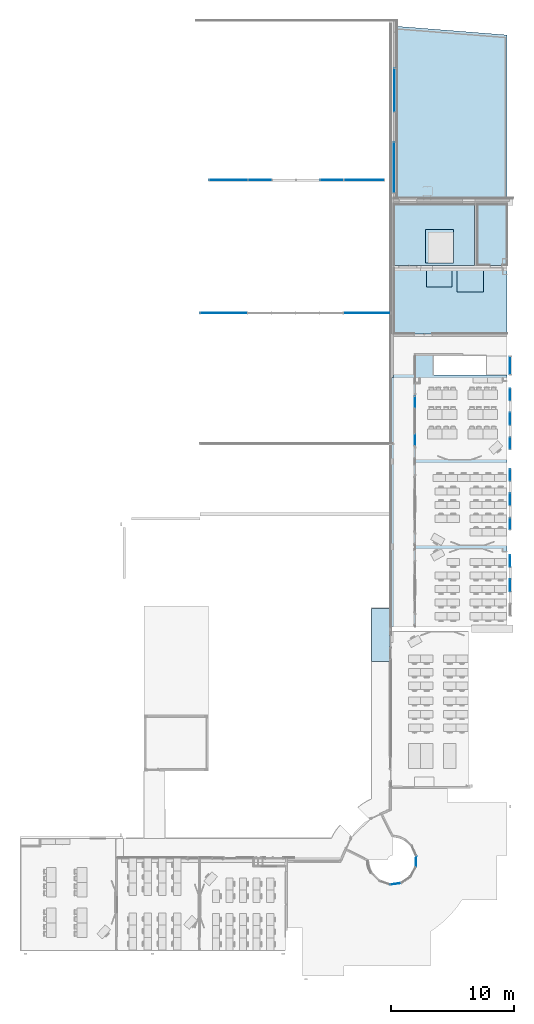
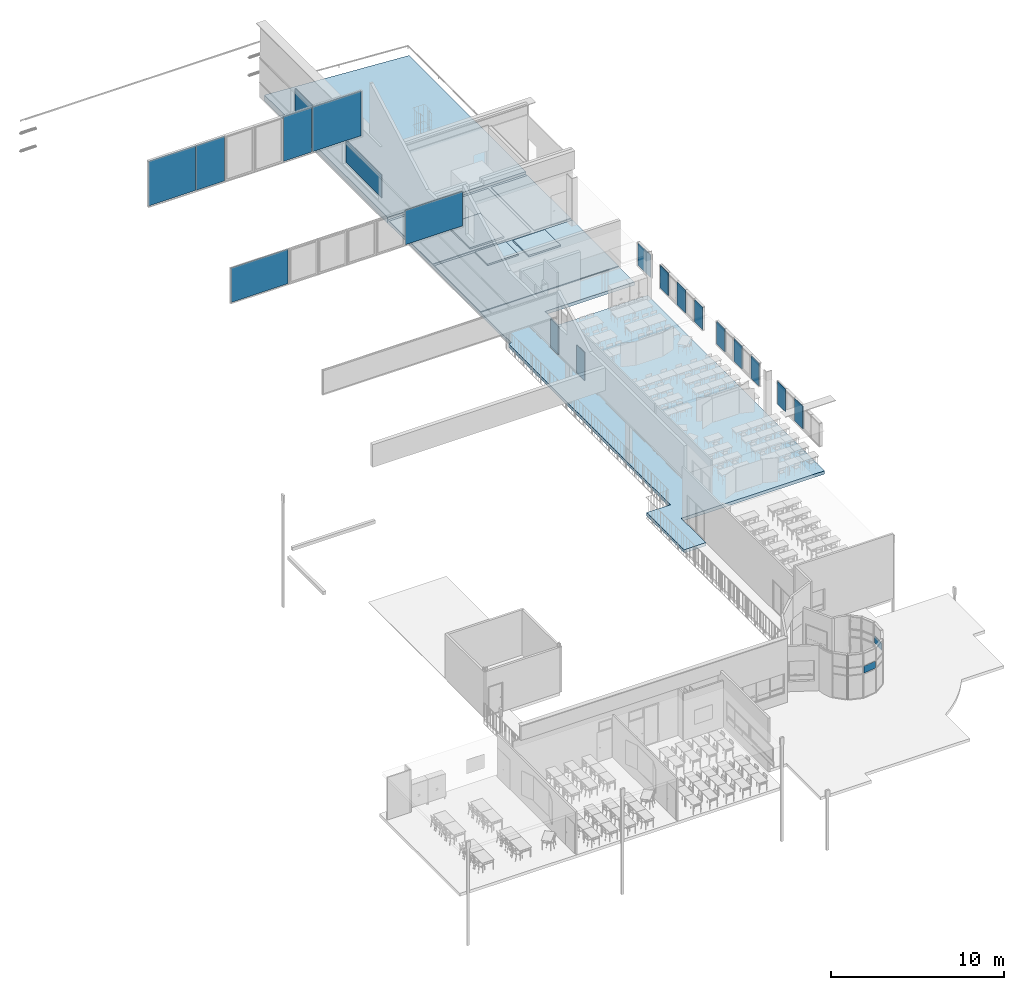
# One storey, part 16 of 44: 34 plates, 8 slabs, 17 elements without a shape of their own.
"""IFC2X3 building model written with IfcOpenShell, lengths in centimetres."""

from ifc_helpers import new_model, entity, si_unit, converted_unit, derived_unit, direction, frame, frame_2d, origin, origin_2d_with_axis, place, context, subcontext, project, spatial, polyline, rectangle, outline, extrude, source, transform, mapped, material, layer, layer_set, layer_usage, type_object, type_shapes, element, aggregate, save


model = new_model("IFC2X3")

# Units and contexts
model_context = context("Model", 3, precision=0.001, world=origin(), true_north=direction((6.12303176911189e-17, 1.0)))
body_context = subcontext(model_context, "Body", "Model", "MODEL_VIEW")
ifc_project = project(units=[si_unit("LENGTHUNIT", "METRE", prefix="CENTI"), si_unit("AREAUNIT", "SQUARE_METRE"), si_unit("VOLUMEUNIT", "CUBIC_METRE"), converted_unit("PLANEANGLEUNIT", "DEGREE", entity("IfcRatioMeasure", 0.0174532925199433), si_unit("PLANEANGLEUNIT", "RADIAN"), dimensions=[0, 0, 0, 0, 0, 0, 0]), si_unit("MASSUNIT", "GRAM", prefix="KILO"), si_unit("TIMEUNIT", "SECOND"), si_unit("FREQUENCYUNIT", "HERTZ"), si_unit("THERMODYNAMICTEMPERATUREUNIT", "DEGREE_CELSIUS"), derived_unit("THERMALTRANSMITTANCEUNIT", [(si_unit("MASSUNIT", "GRAM", prefix="KILO"), 1), (si_unit("THERMODYNAMICTEMPERATUREUNIT", "KELVIN"), -1), (si_unit("TIMEUNIT", "SECOND"), -3)]), derived_unit("VOLUMETRICFLOWRATEUNIT", [(si_unit("LENGTHUNIT", "METRE"), 3), (si_unit("TIMEUNIT", "SECOND"), -1)]), si_unit("ELECTRICCURRENTUNIT", "AMPERE"), si_unit("ELECTRICVOLTAGEUNIT", "VOLT"), si_unit("POWERUNIT", "WATT"), si_unit("FORCEUNIT", "NEWTON", prefix="KILO"), si_unit("ILLUMINANCEUNIT", "LUX"), si_unit("LUMINOUSFLUXUNIT", "LUMEN"), si_unit("LUMINOUSINTENSITYUNIT", "CANDELA"), derived_unit("USERDEFINED", [(si_unit("MASSUNIT", "GRAM", prefix="KILO"), -1), (si_unit("LENGTHUNIT", "METRE"), -2), (si_unit("TIMEUNIT", "SECOND"), 3), (si_unit("LUMINOUSFLUXUNIT", "LUMEN"), 1)]), derived_unit("LINEARVELOCITYUNIT", [(si_unit("LENGTHUNIT", "METRE"), 1), (si_unit("TIMEUNIT", "SECOND"), -1)]), si_unit("PRESSUREUNIT", "PASCAL"), derived_unit("USERDEFINED", [(si_unit("LENGTHUNIT", "METRE"), -2), (si_unit("MASSUNIT", "GRAM", prefix="KILO"), 1), (si_unit("TIMEUNIT", "SECOND"), -2)])], contexts=[model_context])

# Site, building, storey
site_placement = place(None, frame((8.62739174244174, -249.285249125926, 0.0)))
site = spatial("IfcSite", under=ifc_project, at=site_placement, Name="Default", CompositionType="ELEMENT")
building_placement = place(site_placement, origin())
building = spatial("IfcBuilding", under=site, at=building_placement, CompositionType="ELEMENT")
storey_placement = place(building_placement, frame((0.0, 0.0, 343.0)))
storey = spatial("IfcBuildingStorey", under=building, at=storey_placement, Name="R+1", CompositionType="ELEMENT", Elevation=343.0)

# Curtain wall, plate
curtain_wall_type_1 = type_object("IfcCurtainWallType", Name="Mur-rideau:Simple panneau", PredefinedType="NOTDEFINED")
curtain_wall_1_placement = place(storey_placement, frame((0.0, 0.0, -343.0)))
curtain_wall_1 = element("IfcCurtainWall", 1, at=curtain_wall_1_placement, inside=storey, type_object=curtain_wall_type_1, Name="Mur-rideau:Simple panneau", ObjectType="Mur-rideau:Simple panneau")
ifc_material_1 = material(Name="Verre")
plate_type_1 = type_object("IfcPlateType", Name="Vitré", PredefinedType="CURTAIN_PANEL", material=ifc_material_1)
shared_shape_1 = source(origin(), body_context, "Body", "SweptSolid", [
    extrude(rectangle(XDim=4.0, YDim=94.9999999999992, at=origin_2d_with_axis()), frame((0.0, -2.49999999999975, 0.0), z_axis=(0.0, 0.0, 1.0), x_axis=(0.0, 1.0, 0.0)), (0.0, 0.0, 1.0), 160.0),
])
type_shapes(plate_type_1, [shared_shape_1])
plate_1_placement = place(curtain_wall_1_placement, frame((4001.90482776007, 4346.58270074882, 456.0), z_axis=(0.0, 0.0, 1.0), x_axis=(0.0, -1.0, 0.0)))
plate_1 = element("IfcPlate", 2, at=plate_1_placement, type_object=plate_type_1, material=ifc_material_1, Name="Panneau système:Vitré", ObjectType="Vitré", context=body_context, shape_type="MappedRepresentation", body=[
    mapped(shared_shape_1, transform((0.0, 0.0, 0.0), scale=1.0)),
])

curtain_wall_2_placement = place(storey_placement, frame((0.0, 0.0, -343.0)))
curtain_wall_2 = element("IfcCurtainWall", 3, at=curtain_wall_2_placement, inside=storey, type_object=curtain_wall_type_1, Name="Mur-rideau:Simple panneau", ObjectType="Mur-rideau:Simple panneau")
plate_2_placement = place(curtain_wall_2_placement, frame((4003.90482781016, 2991.68519336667, 456.0), z_axis=(0.0, 0.0, 1.0), x_axis=(0.0, -1.0, 0.0)))
plate_2 = element("IfcPlate", 4, at=plate_2_placement, type_object=plate_type_1, material=ifc_material_1, Name="Panneau système:Vitré", ObjectType="Vitré", context=body_context, shape_type="MappedRepresentation", body=[
    mapped(shared_shape_1, transform((0.0, 0.0, 0.0), scale=1.0)),
])

curtain_wall_3_placement = place(storey_placement, frame((0.0, 0.0, -343.0)))
curtain_wall_3 = element("IfcCurtainWall", 5, at=curtain_wall_3_placement, inside=storey, type_object=curtain_wall_type_1, Name="Mur-rideau:Simple panneau", ObjectType="Mur-rideau:Simple panneau")
plate_3_placement = place(curtain_wall_3_placement, frame((4001.90482776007, 4346.58270074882, 456.0), z_axis=(0.0, 0.0, 1.0), x_axis=(0.0, -1.0, 0.0)))
plate_3 = element("IfcPlate", 6, at=plate_3_placement, type_object=plate_type_1, material=ifc_material_1, Name="Panneau système:Vitré", ObjectType="Vitré", context=body_context, shape_type="MappedRepresentation", body=[
    mapped(shared_shape_1, transform((0.0, 0.0, 0.0), scale=1.0)),
])

curtain_wall_4_placement = place(storey_placement, frame((0.0, 0.0, -343.0)))
curtain_wall_4 = element("IfcCurtainWall", 7, at=curtain_wall_4_placement, inside=storey, type_object=curtain_wall_type_1, Name="Mur-rideau:Simple panneau", ObjectType="Mur-rideau:Simple panneau")
plate_4_placement = place(curtain_wall_4_placement, frame((4001.90482776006, 3691.68519336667, 456.0), z_axis=(0.0, 0.0, 1.0), x_axis=(0.0, -1.0, 0.0)))
plate_4 = element("IfcPlate", 8, at=plate_4_placement, type_object=plate_type_1, material=ifc_material_1, Name="Panneau système:Vitré", ObjectType="Vitré", context=body_context, shape_type="MappedRepresentation", body=[
    mapped(shared_shape_1, transform((0.0, 0.0, 0.0), scale=1.0)),
])

curtain_wall_5_placement = place(storey_placement, frame((0.0, 0.0, -343.0)))
curtain_wall_5 = element("IfcCurtainWall", 9, at=curtain_wall_5_placement, inside=storey, type_object=curtain_wall_type_1, Name="Mur-rideau:Simple panneau", ObjectType="Mur-rideau:Simple panneau")
plate_5_placement = place(curtain_wall_5_placement, frame((4003.90482781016, 2991.68519336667, 456.0), z_axis=(0.0, 0.0, 1.0), x_axis=(0.0, -1.0, 0.0)))
plate_5 = element("IfcPlate", 10, at=plate_5_placement, type_object=plate_type_1, material=ifc_material_1, Name="Panneau système:Vitré", ObjectType="Vitré", context=body_context, shape_type="MappedRepresentation", body=[
    mapped(shared_shape_1, transform((0.0, 0.0, 0.0), scale=1.0)),
])

curtain_wall_6_placement = place(storey_placement, frame((0.0, 0.0, -343.0)))
curtain_wall_6 = element("IfcCurtainWall", 11, at=curtain_wall_6_placement, inside=storey, type_object=curtain_wall_type_1, Name="Mur-rideau:Simple panneau", ObjectType="Mur-rideau:Simple panneau")
plate_6_placement = place(curtain_wall_6_placement, frame((4001.90482776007, 4346.58270074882, 456.0), z_axis=(0.0, 0.0, 1.0), x_axis=(0.0, -1.0, 0.0)))
plate_6 = element("IfcPlate", 12, at=plate_6_placement, type_object=plate_type_1, material=ifc_material_1, Name="Panneau système:Vitré", ObjectType="Vitré", context=body_context, shape_type="MappedRepresentation", body=[
    mapped(shared_shape_1, transform((0.0, 0.0, 0.0), scale=1.0)),
])

curtain_wall_7_placement = place(storey_placement, frame((0.0, 0.0, -343.0)))
curtain_wall_7 = element("IfcCurtainWall", 13, at=curtain_wall_7_placement, inside=storey, type_object=curtain_wall_type_1, Name="Mur-rideau:Simple panneau", ObjectType="Mur-rideau:Simple panneau")
plate_7_placement = place(curtain_wall_7_placement, frame((4001.90482776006, 3691.68519336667, 456.0), z_axis=(0.0, 0.0, 1.0), x_axis=(0.0, -1.0, 0.0)))
plate_7 = element("IfcPlate", 14, at=plate_7_placement, type_object=plate_type_1, material=ifc_material_1, Name="Panneau système:Vitré", ObjectType="Vitré", context=body_context, shape_type="MappedRepresentation", body=[
    mapped(shared_shape_1, transform((0.0, 0.0, 0.0), scale=1.0)),
])

curtain_wall_8_placement = place(storey_placement, frame((0.0, 0.0, -343.0)))
curtain_wall_8 = element("IfcCurtainWall", 15, at=curtain_wall_8_placement, inside=storey, type_object=curtain_wall_type_1, Name="Mur-rideau:Simple panneau", ObjectType="Mur-rideau:Simple panneau")
plate_8_placement = place(curtain_wall_8_placement, frame((4003.90482781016, 2991.68519336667, 456.0), z_axis=(0.0, 0.0, 1.0), x_axis=(0.0, -1.0, 0.0)))
plate_8 = element("IfcPlate", 16, at=plate_8_placement, type_object=plate_type_1, material=ifc_material_1, Name="Panneau système:Vitré", ObjectType="Vitré", context=body_context, shape_type="MappedRepresentation", body=[
    mapped(shared_shape_1, transform((0.0, 0.0, 0.0), scale=1.0)),
])

# Plate
plate_type_2 = type_object("IfcPlateType", Name="Vitré", PredefinedType="CURTAIN_PANEL", material=ifc_material_1)
shared_shape_2 = source(origin(), body_context, "Body", "SweptSolid", [
    extrude(rectangle(XDim=4.0, YDim=92.4999999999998, at=origin_2d_with_axis()), frame((0.0, -2.49999999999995, 0.0), z_axis=(0.0, 0.0, 1.0), x_axis=(0.0, 1.0, 0.0)), (0.0, 0.0, 1.0), 160.0),
])
type_shapes(plate_type_2, [shared_shape_2])
plate_9_placement = place(curtain_wall_1_placement, frame((4001.90482776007, 4545.33270074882, 456.0), z_axis=(0.0, 0.0, 1.0), x_axis=(0.0, -1.0, 0.0)))
plate_9 = element("IfcPlate", 17, at=plate_9_placement, type_object=plate_type_2, material=ifc_material_1, Name="Panneau système:Vitré", ObjectType="Vitré", context=body_context, shape_type="MappedRepresentation", body=[
    mapped(shared_shape_2, transform((0.0, 0.0, 0.0), scale=1.0)),
])

plate_10_placement = place(curtain_wall_1_placement, frame((4001.90482776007, 4147.83270074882, 456.0), z_axis=(0.0, 0.0, 1.0), x_axis=(0.0, -1.0, 0.0)))
plate_10 = element("IfcPlate", 18, at=plate_10_placement, type_object=plate_type_2, material=ifc_material_1, Name="Panneau système:Vitré", ObjectType="Vitré", context=body_context, shape_type="MappedRepresentation", body=[
    mapped(shared_shape_2, transform((0.0, 0.0, 0.0), scale=1.0)),
])

aggregate(curtain_wall_1, [plate_9, plate_1, plate_10])

plate_11_placement = place(curtain_wall_2_placement, frame((4003.90482781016, 3190.43519336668, 456.0), z_axis=(0.0, 0.0, 1.0), x_axis=(0.0, -1.0, 0.0)))
plate_11 = element("IfcPlate", 19, at=plate_11_placement, type_object=plate_type_2, material=ifc_material_1, Name="Panneau système:Vitré", ObjectType="Vitré", context=body_context, shape_type="MappedRepresentation", body=[
    mapped(shared_shape_2, transform((0.0, 0.0, 0.0), scale=1.0)),
])

aggregate(curtain_wall_2, [plate_11, plate_2])

plate_12_placement = place(curtain_wall_3_placement, frame((4001.90482776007, 4545.33270074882, 456.0), z_axis=(0.0, 0.0, 1.0), x_axis=(0.0, -1.0, 0.0)))
plate_12 = element("IfcPlate", 20, at=plate_12_placement, type_object=plate_type_2, material=ifc_material_1, Name="Panneau système:Vitré", ObjectType="Vitré", context=body_context, shape_type="MappedRepresentation", body=[
    mapped(shared_shape_2, transform((0.0, 0.0, 0.0), scale=1.0)),
])

plate_13_placement = place(curtain_wall_3_placement, frame((4001.90482776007, 4147.83270074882, 456.0), z_axis=(0.0, 0.0, 1.0), x_axis=(0.0, -1.0, 0.0)))
plate_13 = element("IfcPlate", 21, at=plate_13_placement, type_object=plate_type_2, material=ifc_material_1, Name="Panneau système:Vitré", ObjectType="Vitré", context=body_context, shape_type="MappedRepresentation", body=[
    mapped(shared_shape_2, transform((0.0, 0.0, 0.0), scale=1.0)),
])

aggregate(curtain_wall_3, [plate_12, plate_3, plate_13])

plate_14_placement = place(curtain_wall_4_placement, frame((4001.90482776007, 3890.43519336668, 456.0), z_axis=(0.0, 0.0, 1.0), x_axis=(0.0, -1.0, 0.0)))
plate_14 = element("IfcPlate", 22, at=plate_14_placement, type_object=plate_type_2, material=ifc_material_1, Name="Panneau système:Vitré", ObjectType="Vitré", context=body_context, shape_type="MappedRepresentation", body=[
    mapped(shared_shape_2, transform((0.0, 0.0, 0.0), scale=1.0)),
])

plate_15_placement = place(curtain_wall_4_placement, frame((4001.90482776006, 3492.93519336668, 456.0), z_axis=(0.0, 0.0, 1.0), x_axis=(0.0, -1.0, 0.0)))
plate_15 = element("IfcPlate", 23, at=plate_15_placement, type_object=plate_type_2, material=ifc_material_1, Name="Panneau système:Vitré", ObjectType="Vitré", context=body_context, shape_type="MappedRepresentation", body=[
    mapped(shared_shape_2, transform((0.0, 0.0, 0.0), scale=1.0)),
])

aggregate(curtain_wall_4, [plate_14, plate_4, plate_15])

plate_16_placement = place(curtain_wall_5_placement, frame((4003.90482781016, 3190.43519336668, 456.0), z_axis=(0.0, 0.0, 1.0), x_axis=(0.0, -1.0, 0.0)))
plate_16 = element("IfcPlate", 24, at=plate_16_placement, type_object=plate_type_2, material=ifc_material_1, Name="Panneau système:Vitré", ObjectType="Vitré", context=body_context, shape_type="MappedRepresentation", body=[
    mapped(shared_shape_2, transform((0.0, 0.0, 0.0), scale=1.0)),
])

aggregate(curtain_wall_5, [plate_16, plate_5])

plate_17_placement = place(curtain_wall_6_placement, frame((4001.90482776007, 4545.33270074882, 456.0), z_axis=(0.0, 0.0, 1.0), x_axis=(0.0, -1.0, 0.0)))
plate_17 = element("IfcPlate", 25, at=plate_17_placement, type_object=plate_type_2, material=ifc_material_1, Name="Panneau système:Vitré", ObjectType="Vitré", context=body_context, shape_type="MappedRepresentation", body=[
    mapped(shared_shape_2, transform((0.0, 0.0, 0.0), scale=1.0)),
])

plate_18_placement = place(curtain_wall_6_placement, frame((4001.90482776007, 4147.83270074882, 456.0), z_axis=(0.0, 0.0, 1.0), x_axis=(0.0, -1.0, 0.0)))
plate_18 = element("IfcPlate", 26, at=plate_18_placement, type_object=plate_type_2, material=ifc_material_1, Name="Panneau système:Vitré", ObjectType="Vitré", context=body_context, shape_type="MappedRepresentation", body=[
    mapped(shared_shape_2, transform((0.0, 0.0, 0.0), scale=1.0)),
])

aggregate(curtain_wall_6, [plate_17, plate_6, plate_18])

plate_19_placement = place(curtain_wall_7_placement, frame((4001.90482776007, 3890.43519336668, 456.0), z_axis=(0.0, 0.0, 1.0), x_axis=(0.0, -1.0, 0.0)))
plate_19 = element("IfcPlate", 27, at=plate_19_placement, type_object=plate_type_2, material=ifc_material_1, Name="Panneau système:Vitré", ObjectType="Vitré", context=body_context, shape_type="MappedRepresentation", body=[
    mapped(shared_shape_2, transform((0.0, 0.0, 0.0), scale=1.0)),
])

plate_20_placement = place(curtain_wall_7_placement, frame((4001.90482776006, 3492.93519336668, 456.0), z_axis=(0.0, 0.0, 1.0), x_axis=(0.0, -1.0, 0.0)))
plate_20 = element("IfcPlate", 28, at=plate_20_placement, type_object=plate_type_2, material=ifc_material_1, Name="Panneau système:Vitré", ObjectType="Vitré", context=body_context, shape_type="MappedRepresentation", body=[
    mapped(shared_shape_2, transform((0.0, 0.0, 0.0), scale=1.0)),
])

aggregate(curtain_wall_7, [plate_19, plate_7, plate_20])

plate_21_placement = place(curtain_wall_8_placement, frame((4003.90482781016, 3190.43519336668, 456.0), z_axis=(0.0, 0.0, 1.0), x_axis=(0.0, -1.0, 0.0)))
plate_21 = element("IfcPlate", 29, at=plate_21_placement, type_object=plate_type_2, material=ifc_material_1, Name="Panneau système:Vitré", ObjectType="Vitré", context=body_context, shape_type="MappedRepresentation", body=[
    mapped(shared_shape_2, transform((0.0, 0.0, 0.0), scale=1.0)),
])

aggregate(curtain_wall_8, [plate_21, plate_8])

# Curtain wall, plate
curtain_wall_9_placement = place(storey_placement, frame((0.0, 0.0, -343.0)))
curtain_wall_9 = element("IfcCurtainWall", 30, at=curtain_wall_9_placement, inside=storey, type_object=curtain_wall_type_1, Name="Mur-rideau:Simple panneau", ObjectType="Mur-rideau:Simple panneau")
plate_type_3 = type_object("IfcPlateType", Name="Vitré", PredefinedType="CURTAIN_PANEL", material=ifc_material_1)
shared_shape_3 = source(origin(), body_context, "Body", "SweptSolid", [
    extrude(rectangle(XDim=4.0, YDim=145.000000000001, at=origin_2d_with_axis()), frame((0.0, -2.5, 0.0), z_axis=(0.0, 0.0, 1.0), x_axis=(0.0, 1.0, 0.0)), (0.0, 0.0, 1.0), 159.99999999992),
])
type_shapes(plate_type_3, [shared_shape_3])
plate_22_placement = place(curtain_wall_9_placement, frame((4003.90482781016, 4780.48020813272, 456.0), z_axis=(0.0, 0.0, 1.0), x_axis=(0.0, -1.0, 0.0)))
plate_22 = element("IfcPlate", 31, at=plate_22_placement, type_object=plate_type_3, material=ifc_material_1, Name="Panneau système:Vitré", ObjectType="Vitré", context=body_context, shape_type="MappedRepresentation", body=[
    mapped(shared_shape_3, transform((0.0, 0.0, 0.0), scale=1.0)),
])
aggregate(curtain_wall_9, [plate_22])

curtain_wall_10_placement = place(storey_placement, frame((0.0, 0.0, -343.0)))
curtain_wall_10 = element("IfcCurtainWall", 32, at=curtain_wall_10_placement, inside=storey, type_object=curtain_wall_type_1, Name="Mur-rideau:Simple panneau", ObjectType="Mur-rideau:Simple panneau")
plate_type_4 = type_object("IfcPlateType", Name="Vitré", PredefinedType="CURTAIN_PANEL", material=ifc_material_1)
shared_shape_4 = source(origin(), body_context, "Body", "SweptSolid", [
    extrude(rectangle(XDim=4.0, YDim=349.999999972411, at=origin_2d_with_axis()), frame((0.0, -2.50000000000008, 0.0), z_axis=(0.0, 0.0, 1.0), x_axis=(0.0, 1.0, 0.0)), (0.0, 0.0, 1.0), 160.0),
])
type_shapes(plate_type_4, [shared_shape_4])
plate_23_placement = place(curtain_wall_10_placement, frame((3063.90482779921, 7020.78019845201, 456.0), z_axis=(0.0, 0.0, 1.0), x_axis=(0.0, -1.0, 0.0)))
plate_23 = element("IfcPlate", 33, at=plate_23_placement, type_object=plate_type_4, material=ifc_material_1, Name="Panneau système:Vitré", ObjectType="Vitré", context=body_context, shape_type="MappedRepresentation", body=[
    mapped(shared_shape_4, transform((0.0, 0.0, 0.0), scale=1.0)),
])
aggregate(curtain_wall_10, [plate_23])

curtain_wall_11_placement = place(storey_placement, frame((0.0, 0.0, -343.0)))
curtain_wall_11 = element("IfcCurtainWall", 34, at=curtain_wall_11_placement, inside=storey, type_object=curtain_wall_type_1, Name="Mur-rideau:Simple panneau", ObjectType="Mur-rideau:Simple panneau")
plate_type_5 = type_object("IfcPlateType", Name="Vitré", PredefinedType="CURTAIN_PANEL", material=ifc_material_1)
shared_shape_5 = source(origin(), body_context, "Body", "SweptSolid", [
    extrude(rectangle(XDim=4.0, YDim=412.200009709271, at=origin_2d_with_axis()), frame((0.0, -2.49999999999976, 0.0), z_axis=(0.0, 0.0, 1.0), x_axis=(0.0, 1.0, 0.0)), (0.0, 0.0, 1.0), 160.0),
])
type_shapes(plate_type_5, [shared_shape_5])
plate_24_placement = place(curtain_wall_11_placement, frame((3058.90482779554, 6391.88020328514, 456.0), z_axis=(0.0, 0.0, 1.0), x_axis=(0.0, -1.0, 0.0)))
plate_24 = element("IfcPlate", 35, at=plate_24_placement, type_object=plate_type_5, material=ifc_material_1, Name="Panneau système:Vitré", ObjectType="Vitré", context=body_context, shape_type="MappedRepresentation", body=[
    mapped(shared_shape_5, transform((0.0, 0.0, 0.0), scale=1.0)),
])
aggregate(curtain_wall_11, [plate_24])

# Curtain wall, plates
curtain_wall_type_2 = type_object("IfcCurtainWallType", Name="Mur-rideau:1 m x 1 m - Meneaux", PredefinedType="NOTDEFINED")
curtain_wall_12_placement = place(storey_placement, frame((0.0, 0.0, -343.0)))
curtain_wall_12 = element("IfcCurtainWall", 36, at=curtain_wall_12_placement, inside=storey, type_object=curtain_wall_type_2, Name="Mur-rideau:1 m x 1 m - Meneaux", ObjectType="Mur-rideau:1 m x 1 m - Meneaux")
plate_type_6 = type_object("IfcPlateType", Name="Vitré", PredefinedType="CURTAIN_PANEL", material=ifc_material_1)
shared_shape_6 = source(origin(), body_context, "Body", "SweptSolid", [
    extrude(rectangle(XDim=4.0, YDim=84.9999999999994, at=frame_2d((0.0, -2.48689957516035e-14), x_axis=(1.0, 0.0))), frame((0.0, -2.50000000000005, 0.0), z_axis=(0.0, 0.0, 1.0), x_axis=(0.0, 1.0, 0.0)), (0.0, 0.0, 1.0), 49.0),
])
type_shapes(plate_type_6, [shared_shape_6])
plate_25_placement = place(curtain_wall_12_placement, frame((3070.29602214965, 564.701718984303, 517.5), z_axis=(0.0, 0.0, 1.0), x_axis=(0.990276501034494, 0.139113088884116, 0.0)))
plate_25 = element("IfcPlate", 37, at=plate_25_placement, type_object=plate_type_6, material=ifc_material_1, Name="Panneau système:Vitré", ObjectType="Vitré", context=body_context, shape_type="MappedRepresentation", body=[
    mapped(shared_shape_6, transform((0.0, 0.0, 0.0), scale=1.0)),
])
plate_26_placement = place(curtain_wall_12_placement, frame((3234.35995205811, 745.738408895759, 517.5), z_axis=(0.0, 0.0, 1.0), x_axis=(0.0412690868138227, 0.999148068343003, 0.0)))
plate_26 = element("IfcPlate", 38, at=plate_26_placement, type_object=plate_type_6, material=ifc_material_1, Name="Panneau système:Vitré", ObjectType="Vitré", context=body_context, shape_type="MappedRepresentation", body=[
    mapped(shared_shape_6, transform((0.0, 0.0, 0.0), scale=1.0)),
])
aggregate(curtain_wall_12, [plate_25, plate_26])

# Curtain wall, plate
curtain_wall_13_placement = place(storey_placement, frame((0.0, 0.0, -343.0)))
curtain_wall_13 = element("IfcCurtainWall", 39, at=curtain_wall_13_placement, inside=storey, type_object=curtain_wall_type_1, Name="Mur-rideau:Simple panneau", ObjectType="Mur-rideau:Simple panneau")
plate_type_7 = type_object("IfcPlateType", Name="Vitré", PredefinedType="CURTAIN_PANEL", material=ifc_material_1)
shared_shape_7 = source(origin(), body_context, "Body", "SweptSolid", [
    extrude(rectangle(XDim=4.0, YDim=89.9999999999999, at=origin_2d_with_axis()), frame((0.0, -2.50000000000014, 0.0), z_axis=(0.0, 0.0, 1.0), x_axis=(0.0, 1.0, 0.0)), (0.0, 0.0, 1.0), 198.499999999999),
])
type_shapes(plate_type_7, [shared_shape_7])
plate_27_placement = place(curtain_wall_13_placement, frame((3224.90482780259, 4177.18519336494, 348.0), z_axis=(0.0, 0.0, 1.0), x_axis=(0.0, 1.0, 0.0)))
plate_27 = element("IfcPlate", 40, at=plate_27_placement, type_object=plate_type_7, material=ifc_material_1, Name="Panneau système:Vitré", ObjectType="Vitré", context=body_context, shape_type="MappedRepresentation", body=[
    mapped(shared_shape_7, transform((0.0, 0.0, 0.0), scale=1.0)),
])
aggregate(curtain_wall_13, [plate_27])

curtain_wall_14_placement = place(storey_placement, frame((0.0, 0.0, -343.0)))
curtain_wall_14 = element("IfcCurtainWall", 41, at=curtain_wall_14_placement, inside=storey, type_object=curtain_wall_type_1, Name="Mur-rideau:Simple panneau", ObjectType="Mur-rideau:Simple panneau")
plate_28_placement = place(curtain_wall_14_placement, frame((3224.90482780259, 4481.48020813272, 348.0), z_axis=(0.0, 0.0, 1.0), x_axis=(0.0, 1.0, 0.0)))
plate_28 = element("IfcPlate", 42, at=plate_28_placement, type_object=plate_type_7, material=ifc_material_1, Name="Panneau système:Vitré", ObjectType="Vitré", context=body_context, shape_type="MappedRepresentation", body=[
    mapped(shared_shape_7, transform((0.0, 0.0, 0.0), scale=1.0)),
])
aggregate(curtain_wall_14, [plate_28])

# Curtain wall, plates
curtain_wall_15_placement = place(storey_placement, frame((0.0, 0.0, -343.0)))
curtain_wall_15 = element("IfcCurtainWall", 43, at=curtain_wall_15_placement, inside=storey, type_object=curtain_wall_type_1, Name="Mur-rideau:Simple panneau", ObjectType="Mur-rideau:Simple panneau")
plate_type_8 = type_object("IfcPlateType", Name="Vitré", PredefinedType="CURTAIN_PANEL", material=ifc_material_1)
shared_shape_8 = source(origin(), body_context, "Body", "SweptSolid", [
    extrude(rectangle(XDim=4.0, YDim=381.75000001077, at=frame_2d((-4.44089209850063e-16, 0.0), x_axis=(1.0, 0.0))), frame((0.0, 2.5, 0.0), z_axis=(0.0, 0.0, 1.0), x_axis=(0.0, 1.0, 0.0)), (0.0, 0.0, 1.0), 243.0),
])
type_shapes(plate_type_8, [shared_shape_8])
plate_29_placement = place(curtain_wall_15_placement, frame((1672.77982779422, 5206.78358687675, 860.0)))
plate_29 = element("IfcPlate", 44, at=plate_29_placement, type_object=plate_type_8, material=ifc_material_1, Name="Panneau système:Vitré", ObjectType="Vitré", context=body_context, shape_type="MappedRepresentation", body=[
    mapped(shared_shape_8, transform((0.0, 0.0, 0.0), scale=1.0)),
])
plate_30_placement = place(curtain_wall_15_placement, frame((2838.02982779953, 5206.78358687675, 860.0)))
plate_30 = element("IfcPlate", 45, at=plate_30_placement, type_object=plate_type_8, material=ifc_material_1, Name="Panneau système:Vitré", ObjectType="Vitré", context=body_context, shape_type="MappedRepresentation", body=[
    mapped(shared_shape_8, transform((0.0, 0.0, 0.0), scale=1.0)),
])
aggregate(curtain_wall_15, [plate_29, plate_30])

curtain_wall_16_placement = place(storey_placement, frame((0.0, 0.0, -343.0)))
curtain_wall_16 = element("IfcCurtainWall", 46, at=curtain_wall_16_placement, inside=storey, type_object=curtain_wall_type_1, Name="Mur-rideau:Simple panneau", ObjectType="Mur-rideau:Simple panneau")
plate_type_9 = type_object("IfcPlateType", Name="Vitré", PredefinedType="CURTAIN_PANEL", material=ifc_material_1)
shared_shape_9 = source(origin(), body_context, "Body", "SweptSolid", [
    extrude(rectangle(XDim=4.0, YDim=311.752413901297, at=frame_2d((-4.44089209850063e-16, 0.0), x_axis=(1.0, 0.0))), frame((0.0, 2.5, 0.0), z_axis=(0.0, 0.0, 1.0), x_axis=(0.0, 1.0, 0.0)), (0.0, 0.0, 1.0), 316.983987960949),
])
type_shapes(plate_type_9, [shared_shape_9])
plate_31_placement = place(curtain_wall_16_placement, frame((1711.78103475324, 6289.4720025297, 860.0)))
plate_31 = element("IfcPlate", 47, at=plate_31_placement, type_object=plate_type_9, material=ifc_material_1, Name="Panneau système:Vitré", ObjectType="Vitré", context=body_context, shape_type="MappedRepresentation", body=[
    mapped(shared_shape_9, transform((0.0, 0.0, 0.0), scale=1.0)),
])
plate_type_10 = type_object("IfcPlateType", Name="Vitré", PredefinedType="CURTAIN_PANEL", material=ifc_material_1)
shared_shape_10 = source(origin(), body_context, "Body", "SweptSolid", [
    extrude(rectangle(XDim=4.0, YDim=189.625000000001, at=frame_2d((-4.44089209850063e-16, 0.0), x_axis=(1.0, 0.0))), frame((0.0, 2.5, 0.0), z_axis=(0.0, 0.0, 1.0), x_axis=(0.0, 1.0, 0.0)), (0.0, 0.0, 1.0), 316.983987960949),
])
type_shapes(plate_type_10, [shared_shape_10])
plate_32_placement = place(curtain_wall_16_placement, frame((1967.46974170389, 6289.4720025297, 860.0)))
plate_32 = element("IfcPlate", 48, at=plate_32_placement, type_object=plate_type_10, material=ifc_material_1, Name="Panneau système:Vitré", ObjectType="Vitré", context=body_context, shape_type="MappedRepresentation", body=[
    mapped(shared_shape_10, transform((0.0, 0.0, 0.0), scale=1.0)),
])
plate_type_11 = type_object("IfcPlateType", Name="Vitré", PredefinedType="CURTAIN_PANEL", material=ifc_material_1)
shared_shape_11 = source(origin(), body_context, "Body", "SweptSolid", [
    extrude(rectangle(XDim=4.0, YDim=189.608410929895, at=frame_2d((-4.44089209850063e-16, 0.0), x_axis=(1.0, 0.0))), frame((0.0, 2.5, 0.0), z_axis=(0.0, 0.0, 1.0), x_axis=(0.0, 1.0, 0.0)), (0.0, 0.0, 1.0), 316.983987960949),
])
type_shapes(plate_type_11, [shared_shape_11])
plate_33_placement = place(curtain_wall_16_placement, frame((2551.31985809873, 6289.4720025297, 860.0)))
plate_33 = element("IfcPlate", 49, at=plate_33_placement, type_object=plate_type_11, material=ifc_material_1, Name="Panneau système:Vitré", ObjectType="Vitré", context=body_context, shape_type="MappedRepresentation", body=[
    mapped(shared_shape_11, transform((0.0, 0.0, 0.0), scale=1.0)),
])
plate_type_12 = type_object("IfcPlateType", Name="Vitré", PredefinedType="CURTAIN_PANEL", material=ifc_material_1)
shared_shape_12 = source(origin(), body_context, "Body", "SweptSolid", [
    extrude(rectangle(XDim=4.0, YDim=326.780764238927, at=frame_2d((-4.44089209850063e-16, 0.0), x_axis=(1.0, 0.0))), frame((0.0, 2.5, 0.0), z_axis=(0.0, 0.0, 1.0), x_axis=(0.0, 1.0, 0.0)), (0.0, 0.0, 1.0), 316.983987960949),
])
type_shapes(plate_type_12, [shared_shape_12])
plate_34_placement = place(curtain_wall_16_placement, frame((2814.51444568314, 6289.4720025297, 860.0)))
plate_34 = element("IfcPlate", 50, at=plate_34_placement, type_object=plate_type_12, material=ifc_material_1, Name="Panneau système:Vitré", ObjectType="Vitré", context=body_context, shape_type="MappedRepresentation", body=[
    mapped(shared_shape_12, transform((0.0, 0.0, 0.0), scale=1.0)),
])
aggregate(curtain_wall_16, [plate_31, plate_32, plate_33, plate_34])

# Slab
ifc_material_2 = material(Name="Béton, coulé sur place, gris")
ifc_layer_1 = layer(ifc_material_2, 23.0)
ifc_layer_set_1 = layer_set([ifc_layer_1], Name="Sol:Dalle en béton  PROJET - 230 mm")
ifc_layer_usage_1 = layer_usage(ifc_layer_set_1, "AXIS3", "POSITIVE", 0.0)
slab_1_placement = place(storey_placement, origin())
element("IfcSlab", 51, at=slab_1_placement, inside=storey, material=ifc_layer_usage_1, Name="Sol:Dalle en béton  PROJET - 230 mm", ObjectType="Sol:Dalle en béton  PROJET - 230 mm", PredefinedType="FLOOR", context=body_context, shape_type="SweptSolid", body=[
    extrude(outline(polyline([(-1656.14285717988, -455.822041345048), (-1222.14285717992, -455.822041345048), (-1222.14285717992, -297.902308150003), (655.857142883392, -297.902308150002), (655.857142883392, -277.902308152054), (2087.85714289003, -277.902308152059), (2087.85714289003, 647.097691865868), (830.857142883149, 647.097691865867), (830.85714288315, 49.0976682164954), (675.857142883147, 49.0976682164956), (675.857142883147, 647.097691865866), (-1372.14285717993, 647.097691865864), (-1372.14285717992, -311.666394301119), (-1656.14285717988, -311.66639430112), (-1656.14285717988, -455.822041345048)])), frame((3331.8071359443, 4027.12306524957, 0.0), z_axis=(0.0, 0.0, -1.0), x_axis=(0.0, 1.0, 0.0)), (0.0, 0.0, 1.0), 23.0),
])

# Roof, slab
roof_placement = place(storey_placement, frame((3053.90482779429, 6114.9802081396, -23.0)))
roof = element("IfcRoof", 52, at=roof_placement, inside=storey, Name="Toit de base:ET 2 + ISO 17 + BET 22", ObjectType="Toit de base:ET 2 + ISO 17 + BET 22", ShapeType="NOTDEFINED")
ifc_material_3 = material(Name="Toiture, membrane EPDM")
ifc_layer_2 = layer(ifc_material_3, 2.0)
ifc_material_4 = material(Name="Laine minérale")
ifc_layer_3 = layer(ifc_material_4, 17.0)
ifc_material_5 = material(Name="Béton, coulé sur place, gris(1)")
ifc_layer_4 = layer(ifc_material_5, 22.0)
ifc_layer_set_2 = layer_set([ifc_layer_2, ifc_layer_3, ifc_layer_4], Name="Toit de base:ET 2 + ISO 17 + BET 22")
slab_2_placement = place(roof_placement, origin())
slab_2 = element("IfcSlab", 53, at=slab_2_placement, material=ifc_layer_set_2, Name="Toit de base:ET 2 + ISO 17 + BET 22", ObjectType="Toit de base:ET 2 + ISO 17 + BET 22", PredefinedType="ROOF", context=body_context, shape_type="SweptSolid", body=[
    extrude(outline(polyline([(-462.500000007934, -713.983432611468), (462.500000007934, -713.983432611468), (462.500000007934, 106.016567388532), (462.500000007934, 126.016567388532), (462.500000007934, 640.84273348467), (-462.500000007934, 713.983432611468), (-462.500000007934, 126.016567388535), (-462.500000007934, 106.016567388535), (-462.500000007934, -713.983432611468)])), frame((462.500000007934, 713.983432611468, 0.0)), (0.0, 0.0, 1.0), 41.0),
])
aggregate(roof, [slab_2])

# Slabs
ifc_material_6 = material(Name="Maçonnerie - Béton")
ifc_layer_5 = layer(ifc_material_6, 11.0)
ifc_layer_set_3 = layer_set([ifc_layer_5], Name="Sol:Dalle en béton - 100 mm")
ifc_layer_usage_2 = layer_usage(ifc_layer_set_3, "AXIS3", "POSITIVE", 0.0)
slab_3_placement = place(storey_placement, origin())
element("IfcSlab", 54, at=slab_3_placement, inside=storey, material=ifc_layer_usage_2, Name="Sol:Dalle en béton - 100 mm", ObjectType="Sol:Dalle en béton - 100 mm", PredefinedType="FLOOR", context=body_context, shape_type="SweptSolid", body=[
    extrude(rectangle(XDim=272.9, YDim=227.2, at=frame_2d((-8.66862137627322e-13, -2.20268248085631e-13), x_axis=(1.0, 0.0))), frame((3428.79439045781, 5751.34181623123, 15.0), z_axis=(0.0, 0.0, -1.0), x_axis=(0.0, 1.0, 0.0)), (0.0, 0.0, 1.0), 11.0),
])
ifc_material_7 = material(Name="Maçonnerie - Isolant_MU")
ifc_layer_6 = layer(ifc_material_7, 4.0)
ifc_layer_set_4 = layer_set([ifc_layer_6], Name="Sol:Etancheite 4")
ifc_layer_usage_3 = layer_usage(ifc_layer_set_4, "AXIS3", "POSITIVE", 0.0)
slab_4_placement = place(storey_placement, origin())
element("IfcSlab", 55, at=slab_4_placement, inside=storey, material=ifc_layer_usage_3, Name="Sol:Etancheite 4", ObjectType="Sol:Etancheite 4", PredefinedType="FLOOR", context=body_context, shape_type="SweptSolid", body=[
    extrude(rectangle(XDim=499.999999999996, YDim=659.999999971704, at=frame_2d((0.0, -1.98951966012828e-13), x_axis=(1.0, 0.0))), frame((3383.90482777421, 5844.9802081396, 4.0), z_axis=(0.0, 0.0, -1.0), x_axis=(0.0, 1.0, 0.0)), (0.0, 0.0, 1.0), 4.00000000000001),
])
ifc_layer_usage_4 = layer_usage(ifc_layer_set_4, "AXIS3", "POSITIVE", 0.0)
slab_5_placement = place(storey_placement, origin())
element("IfcSlab", 56, at=slab_5_placement, inside=storey, material=ifc_layer_usage_4, Name="Sol:Etancheite 4", ObjectType="Sol:Etancheite 4", PredefinedType="FLOOR", context=body_context, shape_type="SweptSolid", body=[
    extrude(rectangle(XDim=499.999999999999, YDim=245.000000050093, at=frame_2d((4.2632564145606e-13, 4.33431068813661e-13), x_axis=(1.0, 0.0))), frame((3856.40482778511, 5844.9802081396, 4.0), z_axis=(0.0, 0.0, -1.0), x_axis=(0.0, 1.0, 0.0)), (0.0, 0.0, 1.0), 4.00000000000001),
])
ifc_layer_usage_5 = layer_usage(ifc_layer_set_3, "AXIS3", "POSITIVE", 0.0)
slab_6_placement = place(storey_placement, origin())
element("IfcSlab", 57, at=slab_6_placement, inside=storey, material=ifc_layer_usage_5, Name="Sol:Dalle en béton - 100 mm", ObjectType="Sol:Dalle en béton - 100 mm", PredefinedType="FLOOR", context=body_context, shape_type="SweptSolid", body=[
    extrude(rectangle(XDim=144.400000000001, YDim=206.0, at=frame_2d((-4.33431068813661e-13, 0.0), x_axis=(1.0, 0.0))), frame((3424.59862142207, 5492.61188716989, 15.0), z_axis=(0.0, 0.0, -1.0), x_axis=(0.0, 1.0, 0.0)), (0.0, 0.0, 1.0), 11.0),
])
ifc_layer_usage_6 = layer_usage(ifc_layer_set_3, "AXIS3", "POSITIVE", 0.0)
slab_7_placement = place(storey_placement, origin())
element("IfcSlab", 58, at=slab_7_placement, inside=storey, material=ifc_layer_usage_6, Name="Sol:Dalle en béton - 100 mm", ObjectType="Sol:Dalle en béton - 100 mm", PredefinedType="FLOOR", context=body_context, shape_type="SweptSolid", body=[
    extrude(rectangle(XDim=180.000000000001, YDim=213.0, at=frame_2d((0.0, -2.1316282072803e-13), x_axis=(1.0, 0.0))), frame((3677.40482772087, 5467.74081935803, 15.0), z_axis=(0.0, 0.0, -1.0), x_axis=(0.0, 1.0, 0.0)), (0.0, 0.0, 1.0), 11.0),
])
ifc_layer_usage_7 = layer_usage(ifc_layer_set_4, "AXIS3", "POSITIVE", 0.0)
slab_8_placement = place(storey_placement, origin())
element("IfcSlab", 59, at=slab_8_placement, inside=storey, material=ifc_layer_usage_7, Name="Sol:Etancheite 4", ObjectType="Sol:Etancheite 4", PredefinedType="FLOOR", context=body_context, shape_type="SweptSolid", body=[
    extrude(rectangle(XDim=536.999999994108, YDim=925.00000000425, at=frame_2d((4.2632564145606e-13, 2.27373675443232e-13), x_axis=(1.0, 0.0))), frame((3516.40482780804, 5306.48020814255, 4.0), z_axis=(0.0, 0.0, -1.0), x_axis=(0.0, 1.0, 0.0)), (0.0, 0.0, 1.0), 4.00000000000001),
])

save(model, "model.ifc")
